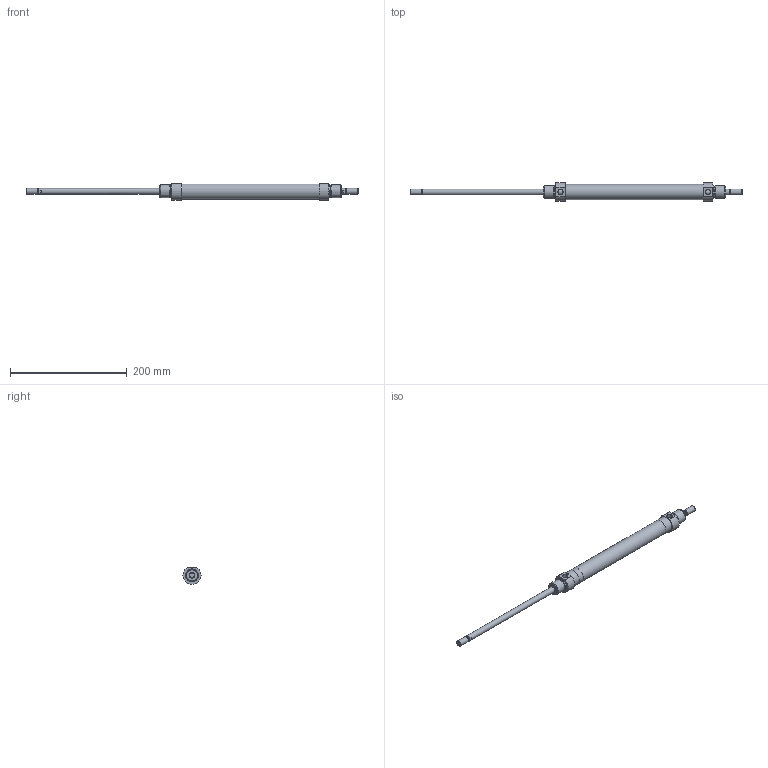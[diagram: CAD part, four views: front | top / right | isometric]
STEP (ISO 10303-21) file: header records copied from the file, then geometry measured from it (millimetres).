
FILE_DESCRIPTION( ( 'STEP AP203' ), '1' );
FILE_NAME( '//expscmdclustefs.cadenas.external/client_exchange/iodir/jobs/output/wkb68469703_no0/STEP/M101-025-0200-M__0__2_03.stp', ' ', ( ' ' ), ( ' ' ), 'PSStep 15.0.47', 'PARTsolutions', ' ' );
FILE_SCHEMA( ( 'CONFIG_CONTROL_DESIGN' ) );
Length unit declared in the file: millimetre
Products named in the file (3): M101-025-0200-M [0]; HI_M101-025-0200-M-[0]-z; HI_M101-025-0200-M-[0]-k
Assembly tree (2 placements, depth 2):
  M101-025-0200-M [0]
    HI_M101-025-0200-M-[0]-z
    HI_M101-025-0200-M-[0]-k
Bounding box: 569 x 31 x 28.79 mm (x, y, z)
Volume: 107801.3 mm3; surface area: 67752 mm2
Topology: 2 solids, 2 shells, 63 faces, 123 edges, 74 vertices
Faces by surface type: plane 28, cylinder 23, cone 10, torus 2
Full cylindrical faces by diameter (mm): 8.16 x2, 8.566 x2, 10 x6, 20.16 x4, 22 x4, 25 x2, 26.6 x1
Entity records: 1700 total; most frequent: CARTESIAN_POINT 390, DIRECTION 276, ORIENTED_EDGE 176, AXIS2_PLACEMENT_3D 124, EDGE_LOOP 112, EDGE_CURVE 88, FACE_OUTER_BOUND 86, VERTEX_POINT 72
